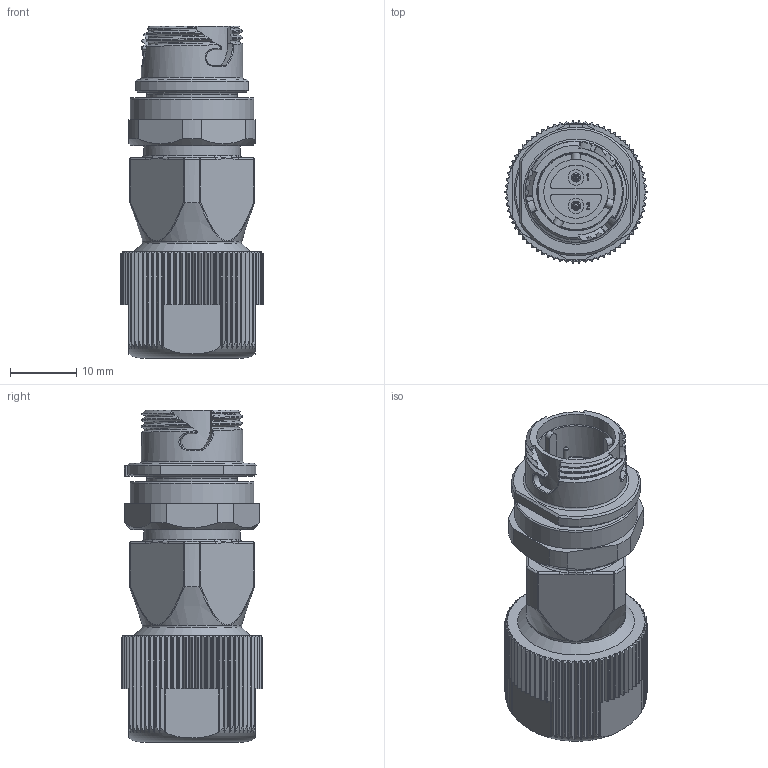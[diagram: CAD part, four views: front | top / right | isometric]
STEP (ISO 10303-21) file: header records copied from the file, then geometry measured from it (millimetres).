
FILE_DESCRIPTION (( 'STEP AP203' ), '1' );
FILE_NAME ('CMV1-CR2P-M2.STEP', '2022-03-31T05:00:28', ( '' ), ( '' ), 'SwSTEP 2.0', 'SolidWorks 2018', '' );
FILE_SCHEMA (( 'CONFIG_CONTROL_DESIGN' ));
Products named in the file (1): CMV1-CR2P-M2
Bounding box: 21.4 x 21.38 x 50 mm (x, y, z)
Volume: 8442 mm3; surface area: 6565.9 mm2
Topology: 1 solids, 1 shells, 993 faces, 2811 edges, 1840 vertices
Faces by surface type: cylinder 397, plane 322, bspline 130, cone 107, torus 27, sphere 10
Full cylindrical faces by diameter (mm): 0.76 x2, 1.4 x4, 1.795 x2, 2.36 x2, 9 x1, 9.2 x1, 9.7 x1, 10 x1, 11.3 x1, 11.4 x1, 11.702 x1, 11.85 x1, 13.6 x1, 14.6 x1, 15 x1, 15.25 x1, 16.3 x1, 18.6 x1
Entity records: 42137 total; most frequent: CARTESIAN_POINT 18486, ORIENTED_EDGE 5462, DIRECTION 4242, EDGE_CURVE 2731, VERTEX_POINT 1814, AXIS2_PLACEMENT_3D 1596, EDGE_LOOP 1067, LINE 1050
